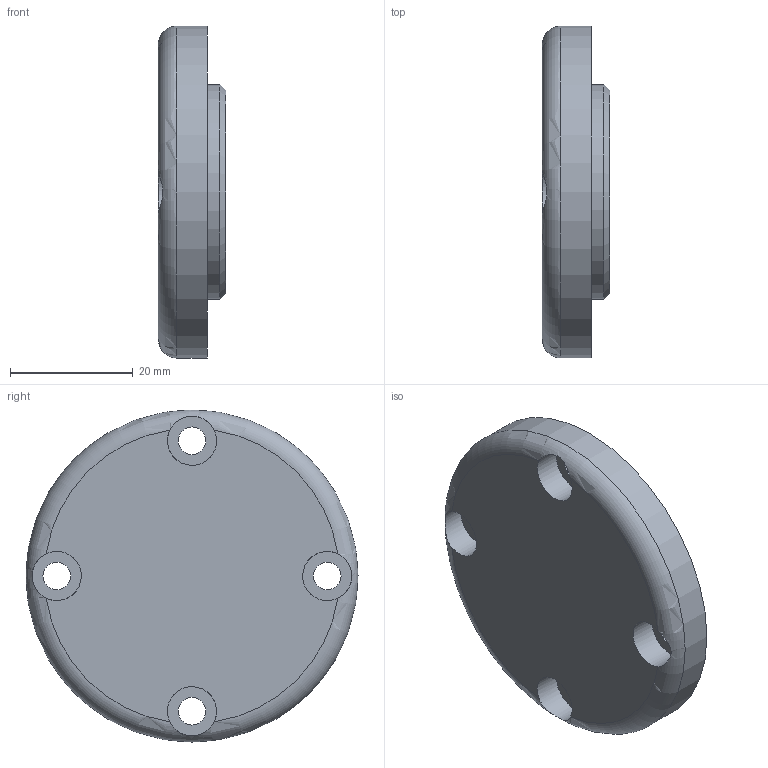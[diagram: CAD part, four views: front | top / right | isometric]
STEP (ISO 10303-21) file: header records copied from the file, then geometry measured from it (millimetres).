
FILE_DESCRIPTION(/* description */ (''),/* implementation_level */ '2;1');
FILE_NAME(/* name */ '',/* time_stamp */ '2026-05-29T16:36:17+09:00',/* author */ ('jhkim'),/* organization */ (''),/* preprocessor_version */ 'ST-DEVELOPER v20.1',/* originating_system */ 'Autodesk Inventor 2027',/* authorisation */ '');
FILE_SCHEMA (('AUTOMOTIVE_DESIGN { 1 0 10303 214 3 1 1 }'));
Length unit declared in the file: millimetre
Products named in the file (1): 뒷 커버
Bounding box: 11 x 54 x 54 mm (x, y, z)
Volume: 16367.7 mm3; surface area: 6827.3 mm2
Topology: 1 solids, 1 shells, 22 faces, 54 edges, 36 vertices
Faces by surface type: cylinder 11, plane 8, torus 2, cone 1
Full cylindrical faces by diameter (mm): 4.5 x4, 8 x4, 30 x1, 35 x1, 54 x1
Entity records: 795 total; most frequent: CARTESIAN_POINT 184, DIRECTION 132, ORIENTED_EDGE 108, AXIS2_PLACEMENT_3D 60, EDGE_CURVE 54, CIRCLE 37, VERTEX_POINT 36, EDGE_LOOP 32
